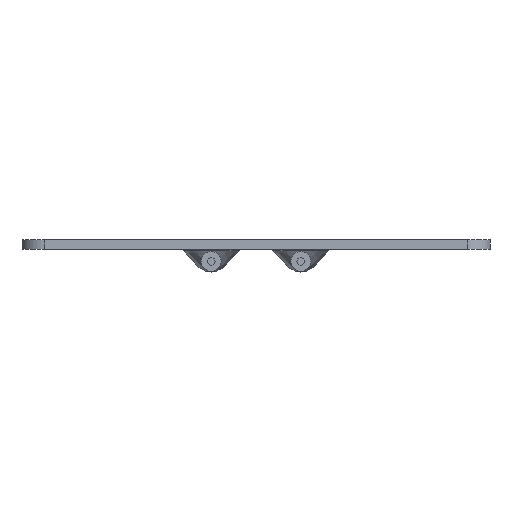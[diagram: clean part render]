
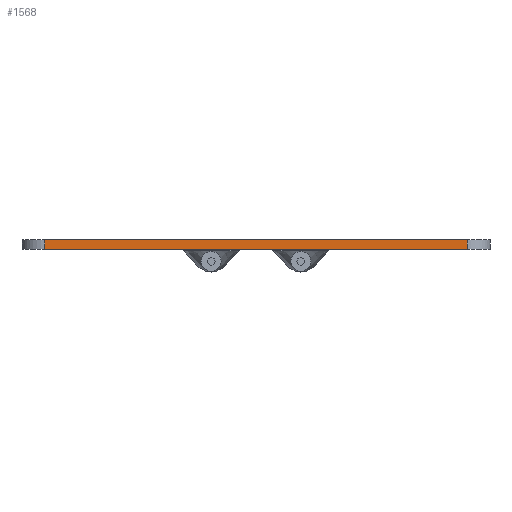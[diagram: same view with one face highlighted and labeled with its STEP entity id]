
A CAD part, front view. The second image highlights one B-rep face of the part: STEP entity #1568.
In plain terms, the highlighted planar face has unit normal (0, -1, 0).
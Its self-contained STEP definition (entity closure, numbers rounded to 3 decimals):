
#57 = PLANE ( 'NONE',  #1368 ) ;
#108 = VERTEX_POINT ( 'NONE', #240 ) ;
#240 = CARTESIAN_POINT ( 'NONE',  ( 27.55, -20.5, 0. ) ) ;
#258 = VECTOR ( 'NONE', #956, 1000. ) ;
#270 = VECTOR ( 'NONE', #807, 1000. ) ;
#430 = LINE ( 'NONE', #608, #1377 ) ;
#501 = EDGE_CURVE ( 'NONE', #1597, #108, #2131, .T. ) ;
#502 = VERTEX_POINT ( 'NONE', #2298 ) ;
#600 = CARTESIAN_POINT ( 'NONE',  ( -27.55, -20.5, 1.2 ) ) ;
#608 = CARTESIAN_POINT ( 'NONE',  ( -27.55, -20.5, 1.2 ) ) ;
#729 = LINE ( 'NONE', #1123, #258 ) ;
#774 = DIRECTION ( 'NONE',  ( 1., 0., 0. ) ) ;
#807 = DIRECTION ( 'NONE',  ( 0., 0., -1. ) ) ;
#835 = ORIENTED_EDGE ( 'NONE', *, *, #2241, .T. ) ;
#953 = EDGE_LOOP ( 'NONE', ( #835, #2114, #1197, #2027 ) ) ;
#956 = DIRECTION ( 'NONE',  ( 1., 0., 0. ) ) ;
#1026 = EDGE_CURVE ( 'NONE', #1993, #502, #430, .T. ) ;
#1052 = DIRECTION ( 'NONE',  ( 0., 1., 0. ) ) ;
#1095 = VECTOR ( 'NONE', #774, 1000. ) ;
#1098 = EDGE_CURVE ( 'NONE', #1993, #1597, #2071, .T. ) ;
#1123 = CARTESIAN_POINT ( 'NONE',  ( -27.55, -20.5, 0. ) ) ;
#1197 = ORIENTED_EDGE ( 'NONE', *, *, #1098, .F. ) ;
#1368 = AXIS2_PLACEMENT_3D ( 'NONE', #2142, #1052, #2317 ) ;
#1377 = VECTOR ( 'NONE', #1874, 1000. ) ;
#1568 = ADVANCED_FACE ( 'NONE', ( #2306 ), #57, .F. ) ;
#1596 = CARTESIAN_POINT ( 'NONE',  ( 27.55, -20.5, 1.2 ) ) ;
#1597 = VERTEX_POINT ( 'NONE', #1596 ) ;
#1874 = DIRECTION ( 'NONE',  ( 0., 0., -1. ) ) ;
#1993 = VERTEX_POINT ( 'NONE', #2294 ) ;
#2027 = ORIENTED_EDGE ( 'NONE', *, *, #1026, .T. ) ;
#2071 = LINE ( 'NONE', #600, #1095 ) ;
#2074 = CARTESIAN_POINT ( 'NONE',  ( 27.55, -20.5, 1.2 ) ) ;
#2114 = ORIENTED_EDGE ( 'NONE', *, *, #501, .F. ) ;
#2131 = LINE ( 'NONE', #2074, #270 ) ;
#2142 = CARTESIAN_POINT ( 'NONE',  ( -27.55, -20.5, 1.2 ) ) ;
#2241 = EDGE_CURVE ( 'NONE', #502, #108, #729, .T. ) ;
#2294 = CARTESIAN_POINT ( 'NONE',  ( -27.55, -20.5, 1.2 ) ) ;
#2298 = CARTESIAN_POINT ( 'NONE',  ( -27.55, -20.5, 0. ) ) ;
#2306 = FACE_OUTER_BOUND ( 'NONE', #953, .T. ) ;
#2317 = DIRECTION ( 'NONE',  ( 0., 0., 1. ) ) ;
